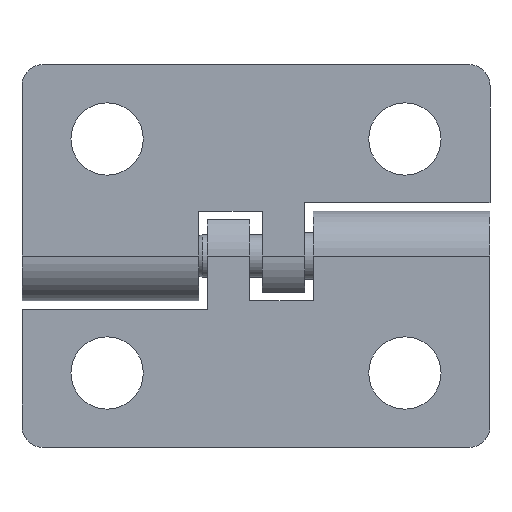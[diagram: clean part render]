
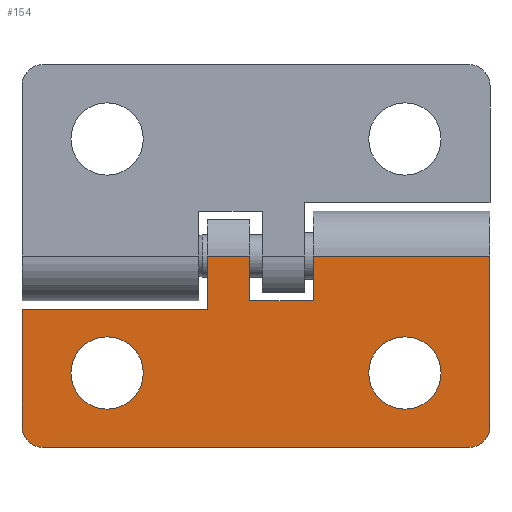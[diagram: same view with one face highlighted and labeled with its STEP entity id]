
A CAD part, left-side view. The second image highlights one B-rep face of the part: STEP entity #154.
In plain terms, the highlighted planar face has unit normal (-1, 0, 0) as drawn and (0, 0, -1) by its records, which use the part's own axes.
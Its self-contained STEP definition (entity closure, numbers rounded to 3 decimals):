
#11 = ORIENTED_EDGE ( 'NONE', *, *, #1360, .T. ) ;
#13 = ORIENTED_EDGE ( 'NONE', *, *, #1363, .F. ) ;
#17 = ORIENTED_EDGE ( 'NONE', *, *, #113, .F. ) ;
#48 = VERTEX_POINT ( 'NONE', #567 ) ;
#51 = VERTEX_POINT ( 'NONE', #616 ) ;
#61 = EDGE_CURVE ( 'NONE', #116, #1268, #685, .T. ) ;
#69 = EDGE_CURVE ( 'NONE', #139, #48, #760, .T. ) ;
#72 = EDGE_CURVE ( 'NONE', #51, #144, #786, .T. ) ;
#90 = ORIENTED_EDGE ( 'NONE', *, *, #61, .F. ) ;
#96 = ORIENTED_EDGE ( 'NONE', *, *, #69, .T. ) ;
#98 = ORIENTED_EDGE ( 'NONE', *, *, #347, .F. ) ;
#101 = ORIENTED_EDGE ( 'NONE', *, *, #72, .F. ) ;
#113 = EDGE_CURVE ( 'NONE', #1268, #116, #352, .T. ) ;
#116 = VERTEX_POINT ( 'NONE', #378 ) ;
#131 = EDGE_LOOP ( 'NONE', ( #90, #17 ) ) ;
#136 = EDGE_CURVE ( 'NONE', #216, #159, #515, .T. ) ;
#139 = VERTEX_POINT ( 'NONE', #531 ) ;
#141 = VERTEX_POINT ( 'NONE', #551 ) ;
#144 = VERTEX_POINT ( 'NONE', #561 ) ;
#148 = VERTEX_POINT ( 'NONE', #605 ) ;
#154 = ADVANCED_FACE ( 'NONE', ( #645, #646, #647 ), #648, .F. ) ;
#159 = VERTEX_POINT ( 'NONE', #684 ) ;
#160 = EDGE_CURVE ( 'NONE', #141, #401, #690, .T. ) ;
#162 = EDGE_CURVE ( 'NONE', #144, #1134, #725, .T. ) ;
#168 = EDGE_CURVE ( 'NONE', #1134, #148, #773, .T. ) ;
#171 = ORIENTED_EDGE ( 'NONE', *, *, #136, .T. ) ;
#178 = EDGE_CURVE ( 'NONE', #159, #139, #848, .T. ) ;
#193 = ORIENTED_EDGE ( 'NONE', *, *, #160, .F. ) ;
#212 = ORIENTED_EDGE ( 'NONE', *, *, #178, .T. ) ;
#213 = VERTEX_POINT ( 'NONE', #357 ) ;
#215 = VERTEX_POINT ( 'NONE', #362 ) ;
#216 = VERTEX_POINT ( 'NONE', #363 ) ;
#344 = EDGE_CURVE ( 'NONE', #1322, #215, #477, .T. ) ;
#347 = EDGE_CURVE ( 'NONE', #216, #141, #489, .T. ) ;
#352 = CIRCLE ( 'NONE', #353, 1.7 ) ;
#353 = AXIS2_PLACEMENT_3D ( 'NONE', #354, #355, #356 ) ;
#354 = CARTESIAN_POINT ( 'NONE',  ( 5.5, -7., -2.1 ) ) ;
#355 = DIRECTION ( 'NONE',  ( 0., 0., -1. ) ) ;
#356 = DIRECTION ( 'NONE',  ( -1., 0., 0. ) ) ;
#357 = CARTESIAN_POINT ( 'NONE',  ( 7.2, 7., -2.1 ) ) ;
#362 = CARTESIAN_POINT ( 'NONE',  ( 0., 0.3, -2.1 ) ) ;
#363 = CARTESIAN_POINT ( 'NONE',  ( 8., 11., -2.1 ) ) ;
#366 = CARTESIAN_POINT ( 'NONE',  ( 7.2, -7., -2.1 ) ) ;
#378 = CARTESIAN_POINT ( 'NONE',  ( 3.8, -7., -2.1 ) ) ;
#401 = VERTEX_POINT ( 'NONE', #504 ) ;
#412 = CIRCLE ( 'NONE', #413, 1.7 ) ;
#413 = AXIS2_PLACEMENT_3D ( 'NONE', #414, #415, #416 ) ;
#414 = CARTESIAN_POINT ( 'NONE',  ( 5.5, 7., -2.1 ) ) ;
#415 = DIRECTION ( 'NONE',  ( 0., 0., -1. ) ) ;
#416 = DIRECTION ( 'NONE',  ( -1., 0., 0. ) ) ;
#476 = CARTESIAN_POINT ( 'NONE',  ( 0., 2.3, -2.1 ) ) ;
#477 = LINE ( 'NONE', #478, #479 ) ;
#478 = CARTESIAN_POINT ( 'NONE',  ( 0., 11., -2.1 ) ) ;
#479 = VECTOR ( 'NONE', #480, 1000. ) ;
#480 = DIRECTION ( 'NONE',  ( 0., -1., 0. ) ) ;
#489 = LINE ( 'NONE', #490, #491 ) ;
#490 = CARTESIAN_POINT ( 'NONE',  ( 0., 11., -2.1 ) ) ;
#491 = VECTOR ( 'NONE', #492, 1000. ) ;
#492 = DIRECTION ( 'NONE',  ( -1., 0., 0. ) ) ;
#504 = CARTESIAN_POINT ( 'NONE',  ( 2.5, 2.3, -2.1 ) ) ;
#515 = CIRCLE ( 'NONE', #516, 1. ) ;
#516 = AXIS2_PLACEMENT_3D ( 'NONE', #517, #518, #520 ) ;
#517 = CARTESIAN_POINT ( 'NONE',  ( 8., 10., -2.1 ) ) ;
#518 = DIRECTION ( 'NONE',  ( 0., 0., -1. ) ) ;
#520 = DIRECTION ( 'NONE',  ( 1., 0., 0. ) ) ;
#526 = CARTESIAN_POINT ( 'NONE',  ( 3.8, 7., -2.1 ) ) ;
#531 = CARTESIAN_POINT ( 'NONE',  ( 9., -10., -2.1 ) ) ;
#551 = CARTESIAN_POINT ( 'NONE',  ( 2.5, 11., -2.1 ) ) ;
#561 = CARTESIAN_POINT ( 'NONE',  ( 2.1, -2.7, -2.1 ) ) ;
#567 = CARTESIAN_POINT ( 'NONE',  ( 8., -11., -2.1 ) ) ;
#605 = CARTESIAN_POINT ( 'NONE',  ( 0., -11., -2.1 ) ) ;
#610 = EDGE_CURVE ( 'NONE', #401, #1322, #640, .T. ) ;
#616 = CARTESIAN_POINT ( 'NONE',  ( 2.1, 0.3, -2.1 ) ) ;
#640 = LINE ( 'NONE', #641, #642 ) ;
#641 = CARTESIAN_POINT ( 'NONE',  ( 2.5, 2.3, -2.1 ) ) ;
#642 = VECTOR ( 'NONE', #643, 1000. ) ;
#643 = DIRECTION ( 'NONE',  ( -1., 0., 0. ) ) ;
#645 = FACE_BOUND ( 'NONE', #131, .T. ) ;
#646 = FACE_BOUND ( 'NONE', #1377, .T. ) ;
#647 = FACE_OUTER_BOUND ( 'NONE', #728, .T. ) ;
#648 = PLANE ( 'NONE',  #649 ) ;
#649 = AXIS2_PLACEMENT_3D ( 'NONE', #650, #651, #652 ) ;
#650 = CARTESIAN_POINT ( 'NONE',  ( 0., 11., -2.1 ) ) ;
#651 = DIRECTION ( 'NONE',  ( 0., 0., 1. ) ) ;
#652 = DIRECTION ( 'NONE',  ( 1., 0., 0. ) ) ;
#675 = CIRCLE ( 'NONE', #676, 1.7 ) ;
#676 = AXIS2_PLACEMENT_3D ( 'NONE', #677, #678, #679 ) ;
#677 = CARTESIAN_POINT ( 'NONE',  ( 5.5, 7., -2.1 ) ) ;
#678 = DIRECTION ( 'NONE',  ( 0., 0., -1. ) ) ;
#679 = DIRECTION ( 'NONE',  ( -1., 0., 0. ) ) ;
#684 = CARTESIAN_POINT ( 'NONE',  ( 9., 10., -2.1 ) ) ;
#685 = CIRCLE ( 'NONE', #686, 1.7 ) ;
#686 = AXIS2_PLACEMENT_3D ( 'NONE', #687, #688, #689 ) ;
#687 = CARTESIAN_POINT ( 'NONE',  ( 5.5, -7., -2.1 ) ) ;
#688 = DIRECTION ( 'NONE',  ( 0., 0., -1. ) ) ;
#689 = DIRECTION ( 'NONE',  ( -1., 0., 0. ) ) ;
#690 = LINE ( 'NONE', #691, #692 ) ;
#691 = CARTESIAN_POINT ( 'NONE',  ( 2.5, 11., -2.1 ) ) ;
#692 = VECTOR ( 'NONE', #693, 1000. ) ;
#693 = DIRECTION ( 'NONE',  ( 0., -1., 0. ) ) ;
#725 = LINE ( 'NONE', #726, #730 ) ;
#726 = CARTESIAN_POINT ( 'NONE',  ( -3.4, -2.7, -2.1 ) ) ;
#728 = EDGE_LOOP ( 'NONE', ( #212, #96, #11, #1320, #782, #101, #13, #1323, #976, #193, #98, #171 ) ) ;
#730 = VECTOR ( 'NONE', #731, 1000. ) ;
#731 = DIRECTION ( 'NONE',  ( -1., 0., 0. ) ) ;
#760 = CIRCLE ( 'NONE', #761, 1. ) ;
#761 = AXIS2_PLACEMENT_3D ( 'NONE', #762, #763, #766 ) ;
#762 = CARTESIAN_POINT ( 'NONE',  ( 8., -10., -2.1 ) ) ;
#763 = DIRECTION ( 'NONE',  ( 0., 0., -1. ) ) ;
#766 = DIRECTION ( 'NONE',  ( 1., 0., 0. ) ) ;
#773 = LINE ( 'NONE', #774, #775 ) ;
#774 = CARTESIAN_POINT ( 'NONE',  ( 0., 11., -2.1 ) ) ;
#775 = VECTOR ( 'NONE', #776, 1000. ) ;
#776 = DIRECTION ( 'NONE',  ( 0., -1., 0. ) ) ;
#782 = ORIENTED_EDGE ( 'NONE', *, *, #162, .F. ) ;
#786 = LINE ( 'NONE', #787, #788 ) ;
#787 = CARTESIAN_POINT ( 'NONE',  ( 2.1, -2.7, -2.1 ) ) ;
#788 = VECTOR ( 'NONE', #789, 1000. ) ;
#789 = DIRECTION ( 'NONE',  ( 0., -1., 0. ) ) ;
#810 = LINE ( 'NONE', #811, #812 ) ;
#811 = CARTESIAN_POINT ( 'NONE',  ( 0., -11., -2.1 ) ) ;
#812 = VECTOR ( 'NONE', #813, 1000. ) ;
#813 = DIRECTION ( 'NONE',  ( -1., 0., 0. ) ) ;
#832 = LINE ( 'NONE', #833, #834 ) ;
#833 = CARTESIAN_POINT ( 'NONE',  ( 2.1, 0.3, -2.1 ) ) ;
#834 = VECTOR ( 'NONE', #835, 1000. ) ;
#835 = DIRECTION ( 'NONE',  ( 1., 0., 0. ) ) ;
#848 = LINE ( 'NONE', #849, #850 ) ;
#849 = CARTESIAN_POINT ( 'NONE',  ( 9., 11., -2.1 ) ) ;
#850 = VECTOR ( 'NONE', #851, 1000. ) ;
#851 = DIRECTION ( 'NONE',  ( 0., -1., 0. ) ) ;
#854 = ORIENTED_EDGE ( 'NONE', *, *, #1349, .F. ) ;
#922 = CARTESIAN_POINT ( 'NONE',  ( 0., -2.7, -2.1 ) ) ;
#976 = ORIENTED_EDGE ( 'NONE', *, *, #610, .F. ) ;
#1134 = VERTEX_POINT ( 'NONE', #922 ) ;
#1268 = VERTEX_POINT ( 'NONE', #366 ) ;
#1311 = EDGE_CURVE ( 'NONE', #1330, #213, #412, .T. ) ;
#1320 = ORIENTED_EDGE ( 'NONE', *, *, #168, .F. ) ;
#1322 = VERTEX_POINT ( 'NONE', #476 ) ;
#1323 = ORIENTED_EDGE ( 'NONE', *, *, #344, .F. ) ;
#1330 = VERTEX_POINT ( 'NONE', #526 ) ;
#1345 = ORIENTED_EDGE ( 'NONE', *, *, #1311, .F. ) ;
#1349 = EDGE_CURVE ( 'NONE', #213, #1330, #675, .T. ) ;
#1360 = EDGE_CURVE ( 'NONE', #48, #148, #810, .T. ) ;
#1363 = EDGE_CURVE ( 'NONE', #215, #51, #832, .T. ) ;
#1377 = EDGE_LOOP ( 'NONE', ( #1345, #854 ) ) ;
